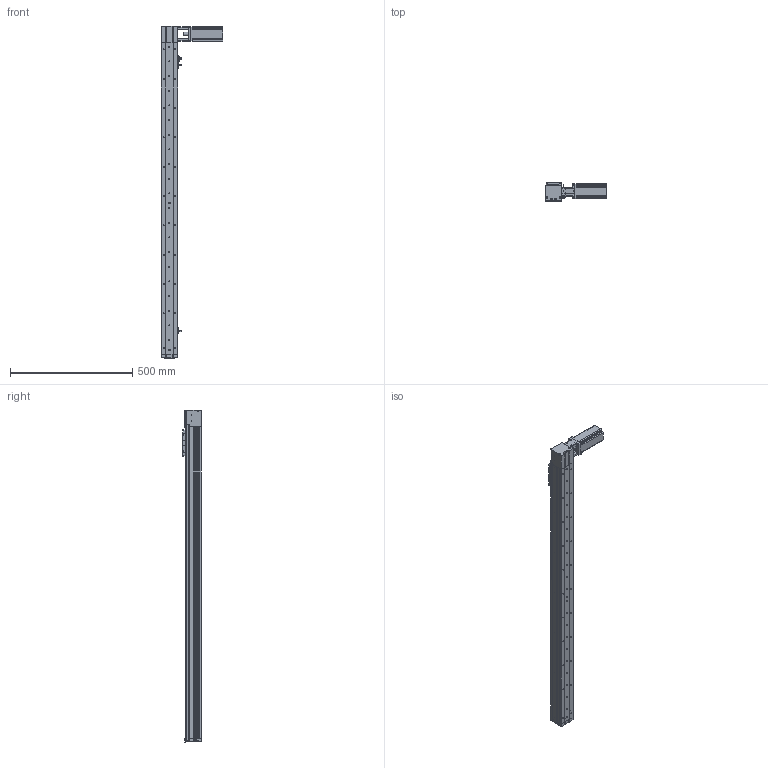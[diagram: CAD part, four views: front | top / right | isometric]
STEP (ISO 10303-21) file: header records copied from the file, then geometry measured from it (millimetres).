
FILE_DESCRIPTION (( 'STEP AP214' ), '1' );
FILE_NAME ('KSD68BS-S1100-MRT-CR.STEP', '2019-08-27T07:18:45', ( '微软用户' ), ( '微软中国' ), 'SwSTEP 2.0', 'SolidWorks 2014', '' );
FILE_SCHEMA (( 'AUTOMOTIVE_DESIGN' ));
Length unit declared in the file: millimetre
Products named in the file (13): KSD68BS-S1100-MRT-CR; KSD68BS 1100行程底板全封闭; 台达ECMA－C20604AS伺服电机（400W); U倰嫖萇EEㄜSX672; 感应片68宽全封闭; 68单导轨全封闭同步带安装板; 68单导轨全封闭同步带电机座左; 68宽单导轨全封闭同步带端板; KSD68BS 1100行程侧板全封闭; 68宽单导轨全封闭丝杆传动安装板1防护罩; 68遵裔啣揤啣1; KSD68BS 1100行程盖板全封闭; 100遵鎮湛假蚾啣1
Assembly tree (16 placements, depth 2):
  KSD68BS-S1100-MRT-CR
    KSD68BS 1100行程底板全封闭
    台达ECMA－C20604AS伺服电机（400W)
    U倰嫖萇EEㄜSX672  x3
    感应片68宽全封闭
    68单导轨全封闭同步带安装板
    68单导轨全封闭同步带电机座左
    68宽单导轨全封闭同步带端板
    KSD68BS 1100行程侧板全封闭  x2
    68宽单导轨全封闭丝杆传动安装板1防护罩
    68遵裔啣揤啣1  x2
    KSD68BS 1100行程盖板全封闭
    100遵鎮湛假蚾啣1
Bounding box: 252.7 x 77 x 1358.1 mm (x, y, z)
Volume: 2619288.9 mm3; surface area: 997732.8 mm2
Topology: 17 solids, 17 shells, 1483 faces, 4236 edges, 2702 vertices
Faces by surface type: cylinder 709, plane 602, cone 172
Entity records: 47450 total; most frequent: CARTESIAN_POINT 8187, DIRECTION 7019, ORIENTED_EDGE 6716, EDGE_CURVE 3358, AXIS2_PLACEMENT_3D 2546, VERTEX_POINT 2200, VECTOR 1927, LINE 1927
